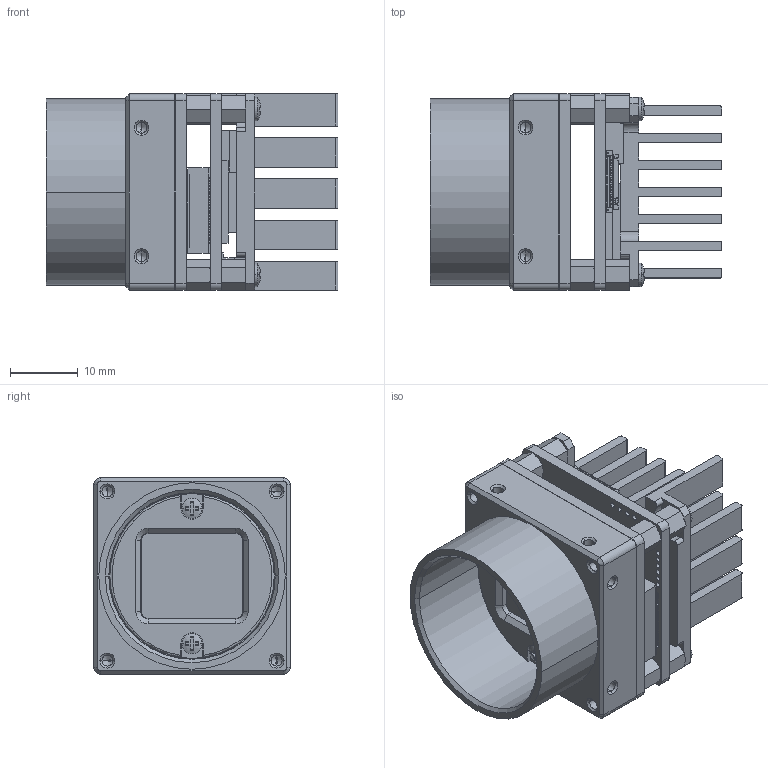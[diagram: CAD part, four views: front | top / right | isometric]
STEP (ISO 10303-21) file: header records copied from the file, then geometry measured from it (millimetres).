
FILE_DESCRIPTION((''),'2;1');
FILE_NAME('00-MV-CB050-19UC_29X29_ASM_ASM','2022-09-01T14:23:38',('wangyijun6'),(''),'CREO PARAMETRIC BY PTC INC, 2017260','CREO PARAMETRIC BY PTC INC, 2017260','');
FILE_SCHEMA(('CONFIG_CONTROL_DESIGN'));
Products named in the file (1): 00-MV-CB050-19UC_29X29_ASM_ASM
Bounding box: 43.08 x 29.12 x 29.12 mm (x, y, z)
Volume: 11784.2 mm3; surface area: 15904.6 mm2
Topology: 1 solids, 43 shells, 4413 faces, 13150 edges, 8744 vertices
Faces by surface type: plane 2837, cylinder 1188, cone 182, bspline 146, torus 56, sphere 4
Entity records: 155905 total; most frequent: CARTESIAN_POINT 35725, ORIENTED_EDGE 26118, DIRECTION 23864, EDGE_CURVE 13099, VECTOR 9386, LINE 9386, VERTEX_POINT 8744, AXIS2_PLACEMENT_3D 7239
